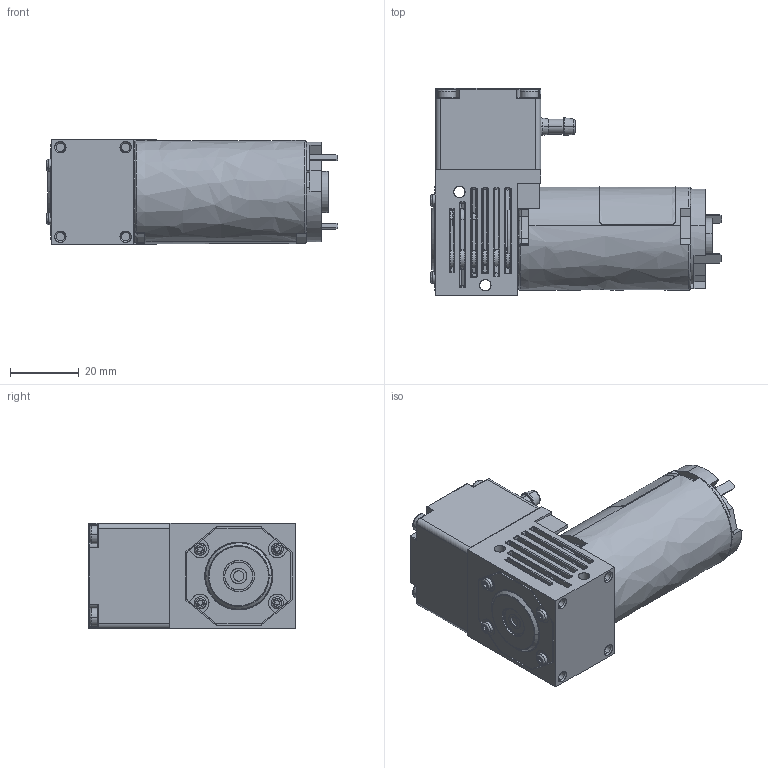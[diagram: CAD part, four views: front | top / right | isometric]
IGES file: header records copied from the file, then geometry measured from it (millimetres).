
Start section: SolidWorks IGES file using analytic representation for surfaces
Global section: file name: Q:\2016\03 Nautilus\41 6410 Shell Creation\Fertig\64100003-18-00_2.IGS; native system: SolidWorks 2017; preprocessor: SolidWorks 2017; author: hxs2830; date: 180302.135640; units: millimetre
Bounding box: 84.65 x 60.2 x 30.7 mm (x, y, z)
Surface area: 17750.3 mm2 (no closed solid volume)
Topology: 0 solids, 0 shells, 1481 faces, 11837 edges, 11770 vertices
Faces by surface type: bspline 959, revolution 522
